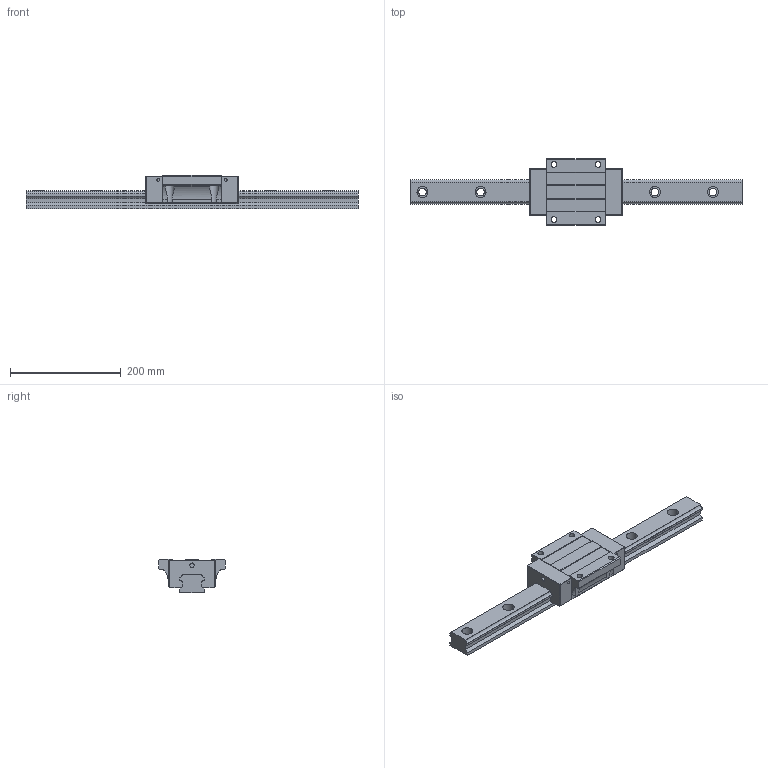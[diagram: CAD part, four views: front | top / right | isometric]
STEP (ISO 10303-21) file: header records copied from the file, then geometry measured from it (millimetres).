
FILE_DESCRIPTION (( 'STEP AP203' ), '1' );
FILE_NAME ('TRH45FL-DZ.STEP', '2024-07-04T06:34:37', ( '' ), ( '' ), 'SwSTEP 2.0', 'SolidWorks 2022', '' );
FILE_SCHEMA (( 'CONFIG_CONTROL_DESIGN' ));
Length unit declared in the file: millimetre
Products named in the file (1): TRH45FL-DZ
Bounding box: 600 x 120 x 60 mm (x, y, z)
Volume: 1320255.3 mm3; surface area: 178830.6 mm2
Topology: 2 solids, 2 shells, 214 faces, 582 edges, 380 vertices
Faces by surface type: cylinder 114, plane 96, sphere 4
Entity records: 7369 total; most frequent: CARTESIAN_POINT 1749, DIRECTION 1172, ORIENTED_EDGE 1156, EDGE_CURVE 578, AXIS2_PLACEMENT_3D 411, VERTEX_POINT 380, LINE 350, VECTOR 350
